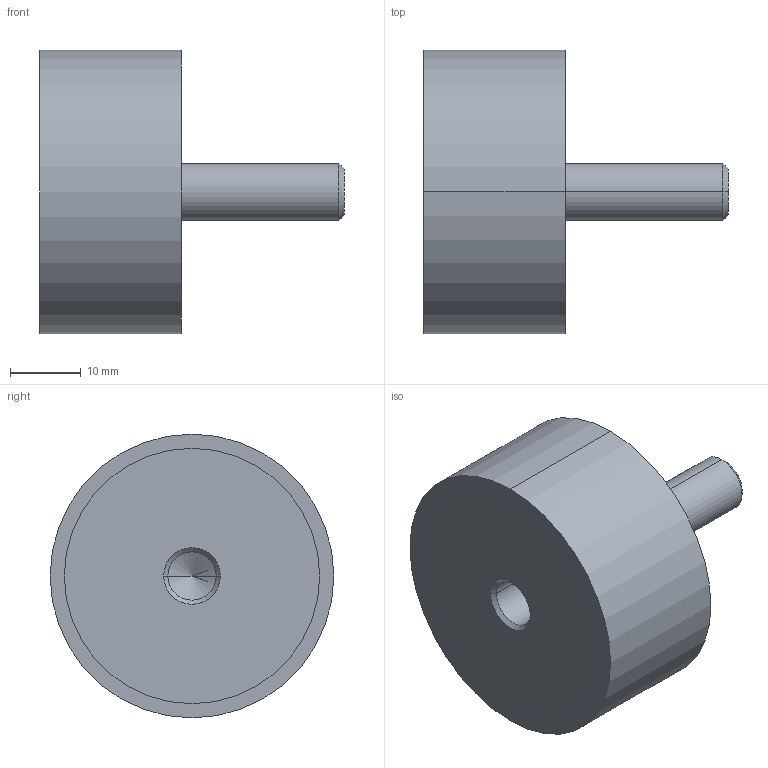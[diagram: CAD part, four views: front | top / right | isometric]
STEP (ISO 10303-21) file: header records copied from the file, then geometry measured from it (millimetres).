
FILE_DESCRIPTION (( 'STEP AP214' ), '1' );
FILE_NAME ('351-40-20-M8-ES-55.step', '2025-07-23T09:50:25', ( '' ), ( '' ), 'SwSTEP 2.0', 'SolidWorks 2022', '' );
FILE_SCHEMA (( 'AUTOMOTIVE_DESIGN' ));
Length unit declared in the file: millimetre
Products named in the file (1): 351-40-20-M8-ES-55
Bounding box: 43 x 40 x 40 mm (x, y, z)
Volume: 25908.3 mm3; surface area: 5784.8 mm2
Topology: 1 solids, 1 shells, 24 faces, 48 edges, 29 vertices
Faces by surface type: cylinder 12, cone 6, plane 6
Entity records: 740 total; most frequent: DIRECTION 124, CARTESIAN_POINT 100, ORIENTED_EDGE 92, AXIS2_PLACEMENT_3D 53, EDGE_CURVE 46, VERTEX_POINT 29, EDGE_LOOP 29, CIRCLE 28
